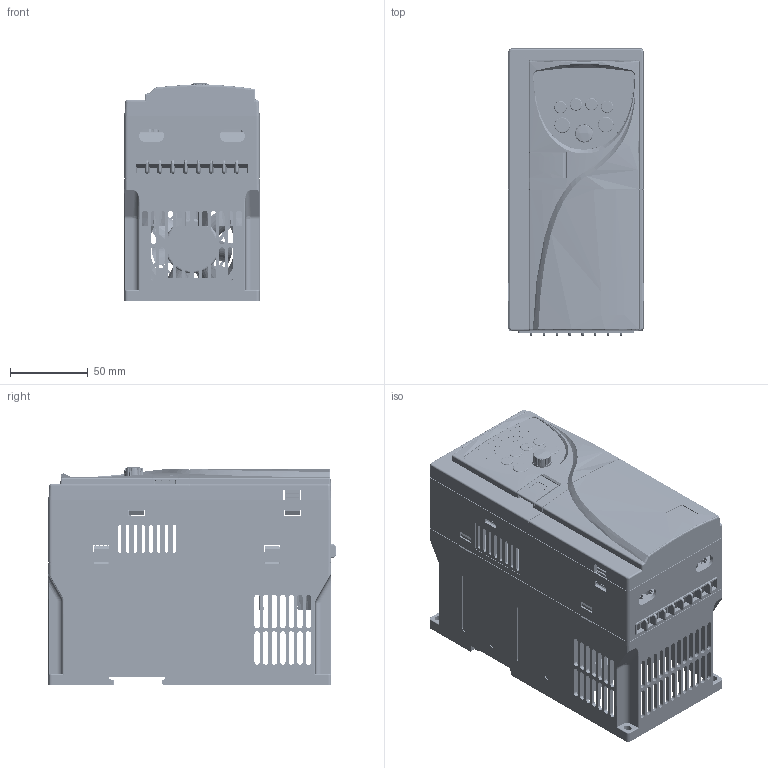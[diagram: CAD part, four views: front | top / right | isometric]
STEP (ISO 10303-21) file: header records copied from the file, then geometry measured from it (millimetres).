
FILE_DESCRIPTION (( 'STEP AP203' ), '1' );
FILE_NAME ('Ïðåîáðàçîâàòåëü ÷àñòîòû _ INVENT-G4.0-4B.STEP', '2025-07-22T09:37:15', ( '' ), ( '' ), 'SwSTEP 2.0', 'SolidWorks 2021', '' );
FILE_SCHEMA (( 'CONFIG_CONTROL_DESIGN' ));
Length unit declared in the file: millimetre
Products named in the file (45): ﾇ琥韲 4x4.8x19; 扻豵鵨 蚝 B; EU5-09-8.25-00_5; EU5-09-8.25-00_8; HF46F; RL508-15A-8P; Îñíîâà ïëàòû ñèëîâîé B; Ïëàòà ñèëîâàÿ B; 羊铋赅 󉱮7; EU5-09-8.25-00_2; Jumper; EU5-09-8.25-00; Êðûøêà âåíòèëÿòîðà B; RL508-15A-2P; RL508-15A-3P; EU5-09-8.25-00_3; 扻豵鵨 B; Îñíîâà ïëàòû óïðàâëåíèÿ; Ïðåîáðàçîâàòåëü ÷àñòîòû _ INVENT-G4.0-4B; ч蜱齁罻 RJ45; RJ45-8; Ïàíåëü ñ êíîïêàìè; Êîíòàêò 4x4.8x10; EU5-09-8.25-00_4; 26PL; Êðûøêà êëåìì B; Êðûøêà êîðïóñà B; ﾇ琥韲 4x4.8x10_1; EU5-09-8.25-00_7; Êîííåêòîð 22PL EEX 2x11x2.54x35; 抔樦憵 4x4.8x19; Ðåãóëÿòîð; EU5-09-8.25-00_1; Êðûøêà B; Ïëàòà óïðàâëåíèÿ; Äèñïëåé; Âåíòèëÿòîð 60õ60õ25; 6x6x83; Êîíòàêò 4x4.8x19_1; EU5-09-8.25-00_6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
Assembly tree (61 placements, depth 6):
  Ïðåîáðàçîâàòåëü ÷àñòîòû _ INVENT-G4.0-4B
    扻豵鵨 B
    Êðûøêà âåíòèëÿòîðà B
    Âåíòèëÿòîð 60õ60õ25
    Ïëàòà ñèëîâàÿ B
      Îñíîâà ïëàòû ñèëîâîé B
      EU5-09-8.25-00
        EU5-09-8.25-00_3
        EU5-09-8.25-00_4
        EU5-09-8.25-00_6
        EU5-09-8.25-00_8
        EU5-09-8.25-00_7
        EU5-09-8.25-00_2
        EU5-09-8.25-00
        EU5-09-8.25-00_5
        EU5-09-8.25-00_1
      Êîííåêòîð 22PL EEX 2x11x2.54x35
    羊铋赅 󉱮7
    扻豵鵨 蚝 B
    Ïëàòà óïðàâëåíèÿ
      Îñíîâà ïëàòû óïðàâëåíèÿ
      RL508-15A-8P
        RL508-15A-3P  x2
          RL508-15A-3P
          抔樦憵 4x4.8x10
            ﾇ琥韲 4x4.8x10_1
            Êîíòàêò 4x4.8x10
          抔樦憵 4x4.8x19
            ﾇ琥韲 4x4.8x19
            Êîíòàêò 4x4.8x19_1
        RL508-15A-2P
          RL508-15A-2P
          抔樦憵 4x4.8x10  x2
            ﾇ琥韲 4x4.8x10_1
            Êîíòàêò 4x4.8x10
          抔樦憵 4x4.8x19  x2
            ﾇ琥韲 4x4.8x19
            Êîíòàêò 4x4.8x19_1
      WH09-103-15
      RJ45-8
      26PL
      Äèñïëåé
      Jumper  x4
      HF46F
      6x6x83  x6
    Êðûøêà B
      Êðûøêà êîðïóñà B
      Êðûøêà êëåìì B
      ч蜱齁罻 RJ45
      Ïàíåëü ñ êíîïêàìè
      Ðåãóëÿòîð
Bounding box: 87 x 185.2 x 140.18 mm (x, y, z)
Volume: 343639.6 mm3; surface area: 415360.6 mm2
Topology: 71 solids, 81 shells, 11295 faces, 30586 edges, 20025 vertices
Faces by surface type: plane 7879, cylinder 2069, bspline 902, cone 280, torus 151, sphere 14
Entity records: 310417 total; most frequent: CARTESIAN_POINT 86784, ORIENTED_EDGE 48178, DIRECTION 40353, EDGE_CURVE 24091, LINE 17747, VECTOR 17747, VERTEX_POINT 15777, AXIS2_PLACEMENT_3D 11303
